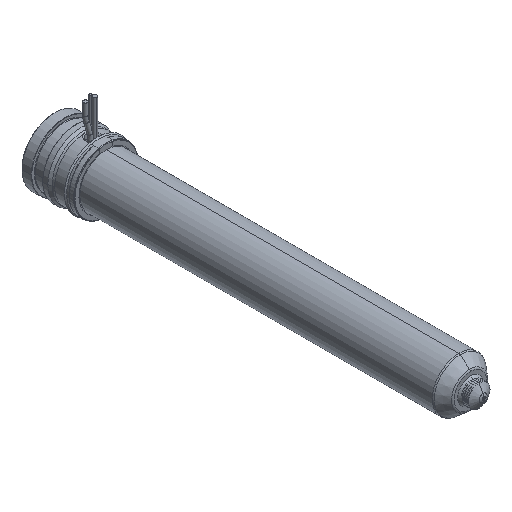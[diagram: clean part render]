
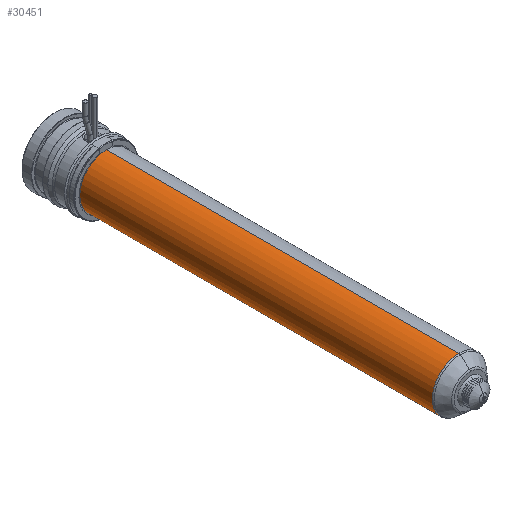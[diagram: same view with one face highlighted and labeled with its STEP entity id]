
A CAD part, isometric view. The second image highlights one B-rep face of the part: STEP entity #30451.
In plain terms, the highlighted cylindrical face has radius 12 mm (diameter 24 mm), a partial arc.
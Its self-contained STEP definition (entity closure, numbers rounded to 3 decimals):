
#29844=CARTESIAN_POINT('',(0.,-183.736,0.));
#29845=DIRECTION('',(0.,-1.,0.));
#29846=DIRECTION('',(0.,0.,1.));
#29847=AXIS2_PLACEMENT_3D('',#29844,#29845,#29846);
#29852=CARTESIAN_POINT('',(0.,-24.,0.));
#29853=DIRECTION('',(0.,1.,0.));
#29854=DIRECTION('',(0.,0.,-1.));
#29855=AXIS2_PLACEMENT_3D('',#29852,#29853,#29854);
#29860=DIRECTION('',(0.,1.,0.));
#29861=VECTOR('',#29860,159.736);
#29862=CARTESIAN_POINT('',(0.,-183.736,12.));
#29863=LINE('',#29862,#29861);
#29875=DIRECTION('',(0.,1.,0.));
#29876=VECTOR('',#29875,159.736);
#29877=CARTESIAN_POINT('',(0.,-183.736,-12.));
#29878=LINE('',#29877,#29876);
#30056=CARTESIAN_POINT('',(0.,-183.736,12.));
#30057=CARTESIAN_POINT('',(0.,-24.,12.));
#30058=VERTEX_POINT('',#30056);
#30059=VERTEX_POINT('',#30057);
#30060=CARTESIAN_POINT('',(0.,-183.736,-12.));
#30061=CARTESIAN_POINT('',(0.,-24.,-12.));
#30062=VERTEX_POINT('',#30060);
#30063=VERTEX_POINT('',#30061);
#30437=CARTESIAN_POINT('',(0.,-11.2,0.));
#30438=DIRECTION('',(0.,-1.,0.));
#30439=DIRECTION('',(0.,0.,1.));
#30440=AXIS2_PLACEMENT_3D('',#30437,#30438,#30439);
#30441=CYLINDRICAL_SURFACE('',#30440,12.);
#30443=ORIENTED_EDGE('',*,*,#30442,.F.);
#30444=ORIENTED_EDGE('',*,*,#30432,.T.);
#30446=ORIENTED_EDGE('',*,*,#30445,.T.);
#30448=ORIENTED_EDGE('',*,*,#30447,.T.);
#30449=EDGE_LOOP('',(#30443,#30444,#30446,#30448));
#30450=FACE_OUTER_BOUND('',#30449,.F.);
#30451=ADVANCED_FACE('',(#30450),#30441,.T.);
#29848=CIRCLE('',#29847,12.);
#29856=CIRCLE('',#29855,12.);
#30432=EDGE_CURVE('',#30058,#30062,#29848,.T.);
#30442=EDGE_CURVE('',#30058,#30059,#29863,.T.);
#30445=EDGE_CURVE('',#30062,#30063,#29878,.T.);
#30447=EDGE_CURVE('',#30063,#30059,#29856,.T.);
